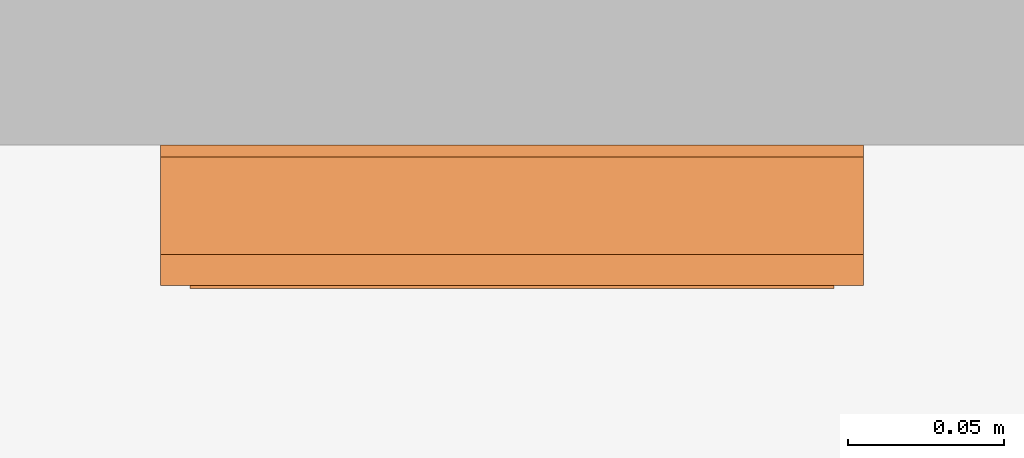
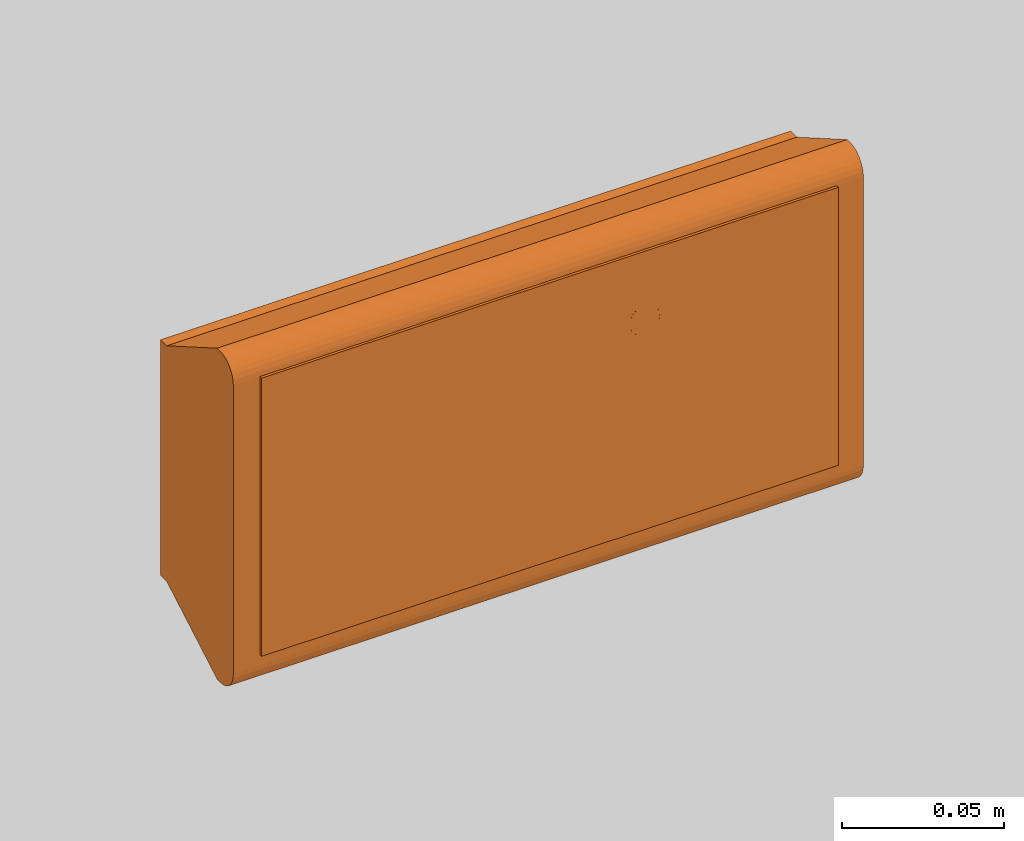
# One storey, part 60 of 197: 1 proxy.
"""IFC2X3 building model written with IfcOpenShell, lengths in metres."""

import ifcopenshell
import ifcopenshell.guid

model = None  # the IFC model being written
_history = None  # IfcOwnerHistory: only IFC2X3 demands one
_inside = {}  # id of a spatial element -> (the spatial element, [elements in it])
_under = {}  # id of a project, library or spatial element -> (it, [spatial elements below it])
_declared = {}  # id of a project -> (the project, [libraries it declares])
_typed = {}  # id of a type object -> (the type object, [elements of that type])
_made_of = {}  # id of a material, layer set ... -> (it, [elements and type objects made of it])


def new_model(schema):
    """Start an empty IFC model of exactly this schema.

    Asked for "IFC4X3", IfcOpenShell would pick the latest addendum, in which some entities
    have other attributes; the version numbers below select the first issue.
    IFC2X3 requires an IfcOwnerHistory on every rooted entity: one is made here for all.
    """
    global model, _history
    if schema == "IFC4X3":
        model = ifcopenshell.file(schema_version=(4, 3, 0, 0))
    else:
        model = ifcopenshell.file(schema=schema)
    _inside.clear()
    _under.clear()
    _declared.clear()
    _typed.clear()
    _made_of.clear()
    _history = None
    if model.schema == "IFC2X3":
        org = make("IfcOrganization", Name="unknown")
        user = make(
            "IfcPersonAndOrganization",
            ThePerson=make("IfcPerson", FamilyName="unknown"),
            TheOrganization=org,
        )
        app = make(
            "IfcApplication",
            ApplicationDeveloper=org,
            Version="unknown",
            ApplicationFullName="unknown",
            ApplicationIdentifier="unknown",
        )
        _history = make(
            "IfcOwnerHistory",
            OwningUser=user,
            OwningApplication=app,
            ChangeAction="ADDED",
            CreationDate=0,
        )
    return model


def make(cls, **values):
    """One entity of the class cls with the attributes given. An attribute that is None is left unset."""
    return model.create_entity(
        cls, **{name: value for name, value in values.items() if value is not None}
    )


def entity(cls, *values):
    """Any entity or typed value of the class cls, its attributes in the order of the schema. None: left unset."""
    e = model.create_entity(cls)
    for i, value in enumerate(values):
        if value is not None:
            e[i] = value
    return e


def rooted(cls, **values):
    """An entity with a GlobalId (a new one), such as an element, a storey or a relation."""
    return make(cls, GlobalId=ifcopenshell.guid.new(), OwnerHistory=_history, **values)


def si_unit(unit_type, name, prefix=None):
    """IfcSIUnit, for example si_unit("LENGTHUNIT", "METRE", prefix="MILLI")."""
    return make("IfcSIUnit", UnitType=unit_type, Prefix=prefix, Name=name)


def converted_unit(unit_type, name, factor, base, dimensions=None, offset=None):
    """IfcConversionBasedUnit, such as the inch: factor (a typed value) times the base unit."""
    return make(
        "IfcConversionBasedUnit"
        if offset is None
        else "IfcConversionBasedUnitWithOffset",
        ConversionOffset=offset,
        Dimensions=None
        if dimensions is None
        else entity("IfcDimensionalExponents", *dimensions),
        UnitType=unit_type,
        Name=name,
        ConversionFactor=make(
            "IfcMeasureWithUnit", ValueComponent=factor, UnitComponent=base
        ),
    )


def assignment(units):
    """IfcUnitAssignment: the units of a project."""
    return None if units is None else make("IfcUnitAssignment", Units=units)


def point(xyz):
    """IfcCartesianPoint."""
    return None if xyz is None else make("IfcCartesianPoint", Coordinates=xyz)


def direction(xyz):
    """IfcDirection."""
    return None if xyz is None else make("IfcDirection", DirectionRatios=xyz)


def frame(location, z_axis=None, x_axis=None):
    """IfcAxis2Placement3D, a coordinate frame: its origin and axes. An axis left out is left unset."""
    return make(
        "IfcAxis2Placement3D",
        Location=point(location),
        Axis=direction(z_axis),
        RefDirection=direction(x_axis),
    )


def frame_2d(location, x_axis=None):
    """IfcAxis2Placement2D, a coordinate frame in the plane: its origin and x axis."""
    return make(
        "IfcAxis2Placement2D", Location=point(location), RefDirection=direction(x_axis)
    )


def origin():
    """The frame at (0, 0, 0) with its axes left unset."""
    return frame((0.0, 0.0, 0.0))


def place(relative_to, where):
    """IfcLocalPlacement: puts the frame where relative to a parent placement (None: the world)."""
    return make(
        "IfcLocalPlacement", PlacementRelTo=relative_to, RelativePlacement=where
    )


def context(
    kind, dimensions, precision=None, world=None, true_north=None, identifier=None
):
    """IfcGeometricRepresentationContext, for example the 3D "Model" context."""
    return make(
        "IfcGeometricRepresentationContext",
        ContextIdentifier=identifier,
        ContextType=kind,
        CoordinateSpaceDimension=dimensions,
        Precision=precision,
        WorldCoordinateSystem=world,
        TrueNorth=true_north,
    )


def subcontext(parent, identifier, kind, view, scale=None):
    """IfcGeometricRepresentationSubContext, for example "Body" below "Model"."""
    return make(
        "IfcGeometricRepresentationSubContext",
        ContextIdentifier=identifier,
        ContextType=kind,
        ParentContext=parent,
        TargetScale=scale,
        TargetView=view,
    )


def project(units=None, contexts=None):
    """IfcProject with its units and contexts."""
    return rooted(
        "IfcProject",
        Name="project",
        RepresentationContexts=contexts,
        UnitsInContext=assignment(units),
    )


def spatial(cls, under=None, at=None, **own):
    """A site, building, storey or space (cls), placed at a placement, below another one or the project."""
    s = rooted(cls, ObjectPlacement=at, **own)
    if under is not None:
        _under.setdefault(under.id(), (under, []))[1].append(s)
    return s


def polyline(points):
    """IfcPolyline through the points."""
    return make("IfcPolyline", Points=[point(p) for p in points])


def circle_curve(where, radius):
    """IfcCircle in the frame where."""
    return make("IfcCircle", Position=where, Radius=radius)


def parameter(value):
    """IfcParameterValue: where a trimmed curve begins or ends, as a parameter of its basis curve."""
    return model.create_entity("IfcParameterValue", value)


def trimmed(basis, trim1, trim2, sense, master):
    """IfcTrimmedCurve: the piece of a basis curve between two trims."""
    return make(
        "IfcTrimmedCurve",
        BasisCurve=basis,
        Trim1=trim1,
        Trim2=trim2,
        SenseAgreement=sense,
        MasterRepresentation=master,
    )


def segment(curve, same_sense, transition):
    """IfcCompositeCurveSegment."""
    return make(
        "IfcCompositeCurveSegment",
        Transition=transition,
        SameSense=same_sense,
        ParentCurve=curve,
    )


def composite_curve(segments, self_intersect=None):
    """IfcCompositeCurve: segments joined end to end."""
    return make("IfcCompositeCurve", Segments=segments, SelfIntersect=self_intersect)


def profile(cls, at=None, kind="AREA", **sizes):
    """A parametric profile (cls). Its sizes go by their IFC names, for example OverallWidth=200.0."""
    return make(cls, ProfileType=kind, Position=at, **sizes)


def circle(**sizes):
    """IfcCircleProfileDef."""
    return profile("IfcCircleProfileDef", **sizes)


def outline(outer, holes=None, kind="AREA"):
    """IfcArbitraryClosedProfileDef: a profile drawn as a closed curve; with holes, ...WithVoids."""
    if holes is None:
        return make("IfcArbitraryClosedProfileDef", ProfileType=kind, OuterCurve=outer)
    return make(
        "IfcArbitraryProfileDefWithVoids",
        ProfileType=kind,
        OuterCurve=outer,
        InnerCurves=holes,
    )


def extrude(swept, where, along, depth):
    """IfcExtrudedAreaSolid: the profile swept, set in the frame where, extruded along a direction by depth."""
    return make(
        "IfcExtrudedAreaSolid",
        SweptArea=swept,
        Position=where,
        ExtrudedDirection=direction(along),
        Depth=depth,
    )


def shape(context_of_items, identifier, shape_type, items):
    """IfcShapeRepresentation: the items that make up one representation, for example the "Body"."""
    return make(
        "IfcShapeRepresentation",
        ContextOfItems=context_of_items,
        RepresentationIdentifier=identifier,
        RepresentationType=shape_type,
        Items=items,
    )


def source(mapping_origin, context_of_items, identifier, shape_type, items):
    """IfcRepresentationMap: a shape defined once, which mapped items show again and again."""
    return make(
        "IfcRepresentationMap",
        MappingOrigin=mapping_origin,
        MappedRepresentation=shape(context_of_items, identifier, shape_type, items),
    )


def transform(
    local_origin,
    x_axis=None,
    y_axis=None,
    z_axis=None,
    scale=None,
    scale2=None,
    scale3=None,
    uniform=True,
):
    """IfcCartesianTransformationOperator3D, or its non-uniform kind. x_axis, y_axis, z_axis: its Axis1, 2, 3."""
    if uniform:
        return make(
            "IfcCartesianTransformationOperator3D",
            Axis1=direction(x_axis),
            Axis2=direction(y_axis),
            LocalOrigin=point(local_origin),
            Scale=scale,
            Axis3=direction(z_axis),
        )
    return make(
        "IfcCartesianTransformationOperator3DnonUniform",
        Axis1=direction(x_axis),
        Axis2=direction(y_axis),
        LocalOrigin=point(local_origin),
        Scale=scale,
        Axis3=direction(z_axis),
        Scale2=scale2,
        Scale3=scale3,
    )


def mapped(mapping_source, mapping_target):
    """IfcMappedItem: shows the shape of a source again, moved by a transform."""
    return make(
        "IfcMappedItem", MappingSource=mapping_source, MappingTarget=mapping_target
    )


def material(Name=None, Category=None):
    """IfcMaterial."""
    return make("IfcMaterial", Name=Name, Category=Category)


def material_list(materials):
    """IfcMaterialList."""
    return make("IfcMaterialList", Materials=materials)


def made_of(thing, what):
    """Note that an element or type object is made of a material, layer set ...; save() writes the relation."""
    if what is not None:
        _made_of.setdefault(what.id(), (what, []))[1].append(thing)
    return thing


def type_object(cls, material=None, **own):
    """A type object (cls), such as IfcWallType, which elements share."""
    return made_of(rooted(cls, **own), material)


def type_shapes(of_type, sources):
    """Give a type object the sources (RepresentationMaps) that its elements show as mapped items."""
    of_type.RepresentationMaps = sources


def element(
    cls,
    number,
    at=None,
    inside=None,
    cuts=None,
    type_object=None,
    material=None,
    context=None,
    identifier="Body",
    shape_type=None,
    held_by="IfcProductDefinitionShape",
    body=None,
    shapes=None,
    **own,
):
    """One element of the class cls, such as IfcWall. Its Tag is "e" and its number.

    at: its placement. inside: the storey or other place that contains it. cuts: it is an
    opening in that element (IfcRelVoidsElement). A single representation is given by context,
    identifier, shape_type and body (its items); several are given by shapes. held_by: the class
    of the entity that holds the representations. save() writes the other relations.
    """
    e = rooted(cls, Tag="e%d" % number, ObjectPlacement=at, **own)
    if body is not None:
        shapes = [shape(context, identifier, shape_type, body)]
    if shapes is not None:
        e.Representation = make(held_by, Representations=shapes)
    if inside is not None:
        _inside.setdefault(inside.id(), (inside, []))[1].append(e)
    if cuts is not None:
        rooted(
            "IfcRelVoidsElement", RelatingBuildingElement=cuts, RelatedOpeningElement=e
        )
    if type_object is not None:
        _typed.setdefault(type_object.id(), (type_object, []))[1].append(e)
    return made_of(e, material)


def aggregate(whole, parts):
    """IfcRelAggregates: a whole, such as a stair, and the parts it consists of."""
    return rooted("IfcRelAggregates", RelatingObject=whole, RelatedObjects=parts)


def save(model, path):
    """Write the relations noted so far, then the file.

    IfcRelAggregates (storeys below a building ...), IfcRelContainedInSpatialStructure (elements
    in a storey), IfcRelDefinesByType, IfcRelAssociatesMaterial and IfcRelDeclares: one each for
    every whole, place, type object, material and project.
    """
    for whole, parts in _under.values():
        aggregate(whole, parts)
    for where, things in _inside.values():
        rooted(
            "IfcRelContainedInSpatialStructure",
            RelatedElements=things,
            RelatingStructure=where,
        )
    for kind, things in _typed.values():
        rooted("IfcRelDefinesByType", RelatedObjects=things, RelatingType=kind)
    for what, things in _made_of.values():
        rooted("IfcRelAssociatesMaterial", RelatedObjects=things, RelatingMaterial=what)
    for by, libraries in _declared.values():
        rooted("IfcRelDeclares", RelatingContext=by, RelatedDefinitions=libraries)
    model.write(path)


model = new_model("IFC2X3")

# Units and contexts
model_context = context("Model", 3, precision=1e-05, world=origin(), true_north=direction((6.123031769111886e-17, 1.0)))
body_context = subcontext(model_context, "Body", "Model", "MODEL_VIEW")
ifc_project = project(units=[si_unit("LENGTHUNIT", "METRE"), converted_unit("PLANEANGLEUNIT", "DEGREE", entity("IfcPlaneAngleMeasure", 0.017453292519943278), si_unit("PLANEANGLEUNIT", "RADIAN"), dimensions=[0, 0, 0, 0, 0, 0, 0]), si_unit("AREAUNIT", "SQUARE_METRE")], contexts=[model_context])

# Site, building, storey
site_placement = place(None, origin())
site = spatial("IfcSite", under=ifc_project, at=site_placement, Name="Default", CompositionType="ELEMENT")
building_placement = place(site_placement, origin())
building = spatial("IfcBuilding", under=site, at=building_placement, CompositionType="ELEMENT")
storey_placement = place(building_placement, origin())
storey = spatial("IfcBuildingStorey", under=building, at=storey_placement, Name="Niveau 0", CompositionType="ELEMENT", Elevation=0.0)

# Proxy
ifc_material_1 = material(Name="BETCE-ENVELOPPE BAES-BLANC")
ifc_material_2 = material(Name="BETCE-ETIQUETTE-VERT 0-193-0")
ifc_material_3 = material(Name="BETCE-VITRE BAES-BLEU")
ifc_material_list = material_list([ifc_material_1, ifc_material_2, ifc_material_3])
building_element_proxy_type = type_object("IfcBuildingElementProxyType", Name="Eclairage de sécurité saillie mur:BAS", PredefinedType="NOTDEFINED", material=ifc_material_list)
shared_shape = source(origin(), body_context, "Body", "SweptSolid", [
    extrude(outline(polyline([(-0.02895906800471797, -0.033302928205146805), (0.012231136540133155, -0.03330292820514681), (0.02996642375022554, -0.012907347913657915), (0.003103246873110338, -0.012907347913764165), (0.03240502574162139, 0.020789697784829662), (0.01608856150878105, 0.03497792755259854), (-0.013213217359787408, 0.0012808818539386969), (-0.01694341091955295, 0.027883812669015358), (-0.03467869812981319, 0.007488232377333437), (-0.02895906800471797, -0.033302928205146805)])), frame((-0.048943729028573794, -0.04599999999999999, 0.0035906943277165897), z_axis=(0.0, 1.0, 0.0), x_axis=(-0.7546055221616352, 0.0, 0.6561787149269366)), (0.0, 0.0, 1.0), 0.0010000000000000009),
    extrude(outline(composite_curve([segment(polyline([(-0.03171408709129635, -0.031123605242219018), (0.01989834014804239, -0.031123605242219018)]), True, "CONTINUOUS"), segment(polyline([(0.01989834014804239, -0.031123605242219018), (0.019898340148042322, 0.026433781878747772)]), True, "CONTINUOUS"), segment(polyline([(0.019898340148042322, 0.026433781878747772), (0.006609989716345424, 0.026433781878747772)]), True, "CONTINUOUS"), segment(trimmed(circle_curve(frame_2d((0.006609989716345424, 0.025833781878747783), x_axis=(0.0, 1.0)), 0.0006000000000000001), [parameter(0.0)], [parameter(83.97510158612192)], True, "PARAMETER"), True, "CONTINUOUS"), segment(polyline([(0.0060133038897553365, 0.025896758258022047), (0.004507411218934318, 0.011628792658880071)]), True, "CONTINUOUS"), segment(trimmed(circle_curve(frame_2d((-0.00942515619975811, 0.013099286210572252), x_axis=(0.0, 1.0)), 0.014009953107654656), [parameter(240.55607644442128)], [parameter(263.9751015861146)], True, "PARAMETER"), False, "CONTINUOUS"), segment(polyline([(0.0027752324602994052, 0.006212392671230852), (-0.0031319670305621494, -0.005153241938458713)]), True, "CONTINUOUS"), segment(polyline([(-0.0031319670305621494, -0.005153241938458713), (0.0052180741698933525, -0.005153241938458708)]), True, "CONTINUOUS"), segment(polyline([(0.0052180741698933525, -0.005153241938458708), (0.011569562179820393, 0.004436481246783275)]), True, "CONTINUOUS"), segment(trimmed(circle_curve(frame_2d((0.013690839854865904, 0.0027344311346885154), x_axis=(0.0, 1.0)), 0.0027197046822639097), [parameter(327.3277331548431)], [parameter(51.25747909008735)], True, "PARAMETER"), False, "CONTINUOUS"), segment(trimmed(circle_curve(frame_2d((0.013690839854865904, 0.0027344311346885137), x_axis=(0.0, 1.0)), 0.0027197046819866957), [parameter(243.39798722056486)], [parameter(327.32773315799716)], True, "PARAMETER"), False, "CONTINUOUS"), segment(polyline([(0.016122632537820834, 0.0015165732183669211), (0.008857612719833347, -0.009515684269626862)]), True, "CONTINUOUS"), segment(trimmed(circle_curve(frame_2d((0.00481319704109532, -0.005807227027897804), x_axis=(0.0, 1.0)), 0.0054872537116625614), [parameter(181.8824185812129)], [parameter(227.48126930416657)], True, "PARAMETER"), False, "CONTINUOUS"), segment(polyline([(0.004993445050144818, -0.011291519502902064), (-0.009885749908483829, -0.011291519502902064)]), True, "CONTINUOUS"), segment(trimmed(circle_curve(frame_2d((-0.009885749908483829, 0.001701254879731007), x_axis=(0.0, 1.0)), 0.012992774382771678), [parameter(133.5550019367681)], [parameter(180.0000000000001)], True, "PARAMETER"), False, "CONTINUOUS"), segment(polyline([(-0.019301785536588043, -0.007251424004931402), (-0.025875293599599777, 0.0021607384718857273)]), True, "CONTINUOUS"), segment(polyline([(-0.025875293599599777, 0.0021607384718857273), (-0.031714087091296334, 0.0021607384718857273)]), True, "CONTINUOUS"), segment(polyline([(-0.031714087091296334, 0.0021607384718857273), (-0.03171408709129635, -0.031123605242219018)]), True, "CONTINUOUS")], self_intersect=False), holes=[composite_curve([segment(trimmed(circle_curve(frame_2d((-0.01596067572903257, -0.0179604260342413), x_axis=(0.0, 1.0)), 0.005405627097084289), [parameter(269.9999999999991)], [parameter(359.9999999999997)], True, "PARAMETER"), False, "CONTINUOUS"), segment(trimmed(circle_curve(frame_2d((-0.01596067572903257, -0.0179604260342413), x_axis=(0.0, 1.0)), 0.005405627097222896), [parameter(180.00000000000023)], [parameter(269.9999999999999)], True, "PARAMETER"), False, "CONTINUOUS"), segment(trimmed(circle_curve(frame_2d((-0.01596067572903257, -0.017960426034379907), x_axis=(0.0, 1.0)), 0.005405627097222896), [parameter(89.99999999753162)], [parameter(179.9999999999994)], True, "PARAMETER"), False, "CONTINUOUS"), segment(trimmed(circle_curve(frame_2d((-0.01596067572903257, -0.017960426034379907), x_axis=(0.0, 1.0)), 0.005405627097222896), [parameter(359.9999999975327)], [parameter(89.99999999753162)], True, "PARAMETER"), False, "CONTINUOUS")], self_intersect=False)]), frame((0.04975088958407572, -0.04599999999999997, 0.008704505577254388), z_axis=(0.0, 1.0, 0.0), x_axis=(1.0, 0.0, 0.0)), (0.0, 0.0, 1.0), 0.001000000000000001),
    extrude(outline(composite_curve([segment(polyline([(-0.011174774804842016, -0.0037977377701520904), (-0.011174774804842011, -0.010138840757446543)]), True, "CONTINUOUS"), segment(polyline([(-0.011174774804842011, -0.010138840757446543), (0.03194487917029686, -0.010138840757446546)]), True, "CONTINUOUS"), segment(polyline([(0.03194487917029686, -0.010138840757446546), (0.03194487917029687, -0.0024869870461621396)]), True, "CONTINUOUS"), segment(polyline([(0.03194487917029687, -0.0024869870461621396), (0.02601267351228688, -0.0024869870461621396)]), True, "CONTINUOUS"), segment(polyline([(0.02601267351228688, -0.0024869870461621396), (-0.005661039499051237, 0.01043216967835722)]), True, "CONTINUOUS"), segment(trimmed(circle_curve(frame_2d((-0.0076628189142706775, 0.006850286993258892), x_axis=(1.0, 0.0)), 0.004103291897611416), [parameter(60.800818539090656)], [parameter(115.83024310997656)], True, "PARAMETER"), True, "CONTINUOUS"), segment(polyline([(-0.009450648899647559, 0.010543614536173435), (-0.020140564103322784, 0.005368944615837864)]), True, "CONTINUOUS"), segment(trimmed(circle_curve(frame_2d((-0.01977914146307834, 0.00490073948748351), x_axis=(1.0, 0.0)), 0.0005914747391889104), [parameter(127.66570843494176)], [parameter(232.33429156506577)], True, "PARAMETER"), True, "CONTINUOUS"), segment(polyline([(-0.020140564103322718, 0.0044325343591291), (-0.0121600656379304, -0.0017278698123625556)]), True, "CONTINUOUS"), segment(trimmed(circle_curve(frame_2d((-0.013841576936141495, -0.0037977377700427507), x_axis=(1.0, 0.0)), 0.0026668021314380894), [parameter(2.544443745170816e-13)], [parameter(50.9104167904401)], True, "PARAMETER"), False, "CONTINUOUS")], self_intersect=False)), frame((0.028175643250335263, -0.046, -0.010852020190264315), z_axis=(0.0, -1.0, 0.0), x_axis=(0.0, 0.0, -1.0)), (0.0, 0.0, -1.0), 0.001000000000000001),
    extrude(outline(composite_curve([segment(trimmed(circle_curve(frame_2d((0.00784705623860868, -0.01405912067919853), x_axis=(-0.6437060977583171, 0.7652728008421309)), 0.0006110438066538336), [parameter(99.86253538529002)], [parameter(179.99999999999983)], True, "PARAMETER"), True, "CONTINUOUS"), segment(trimmed(circle_curve(frame_2d((0.00784705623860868, -0.01405912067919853), x_axis=(-0.6437060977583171, 0.7652728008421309)), 0.0006110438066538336), [parameter(179.99999999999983)], [parameter(260.13746546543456)], True, "PARAMETER"), True, "CONTINUOUS"), segment(polyline([(0.008375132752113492, -0.013751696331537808), (0.0011749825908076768, -0.001383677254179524)]), True, "CONTINUOUS"), segment(trimmed(circle_curve(frame_2d((0.003762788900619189, -0.00031801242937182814), x_axis=(-0.6437060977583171, 0.7652728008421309)), 0.002798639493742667), [parameter(359.99999999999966)], [parameter(72.31324887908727)], True, "PARAMETER"), False, "CONTINUOUS"), segment(polyline([(0.001961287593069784, 0.0018237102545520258), (0.015386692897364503, 0.01311643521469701)]), True, "CONTINUOUS"), segment(polyline([(0.015386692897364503, 0.01311643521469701), (0.0035080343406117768, 0.027238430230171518)]), True, "CONTINUOUS"), segment(polyline([(0.0035080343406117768, 0.027238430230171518), (-0.024968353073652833, 0.0032856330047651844)]), True, "CONTINUOUS"), segment(polyline([(-0.024968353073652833, 0.0032856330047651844), (-0.0211318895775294, -0.0012753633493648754)]), True, "CONTINUOUS"), segment(polyline([(-0.0211318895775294, -0.0012753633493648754), (0.007453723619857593, -0.014526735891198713)]), True, "CONTINUOUS")], self_intersect=False)), frame((0.049431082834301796, -0.04599999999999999, -0.02421021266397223), z_axis=(0.0, 1.0, 0.0), x_axis=(0.7652728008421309, 0.0, 0.6437060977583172)), (0.0, 0.0, 1.0), 0.001000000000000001),
    extrude(outline(polyline([(-0.05249999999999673, -0.10299999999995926), (0.05249999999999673, -0.10299999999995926), (0.05249999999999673, 0.10299999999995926), (-0.05249999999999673, 0.10299999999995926), (-0.05249999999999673, -0.10299999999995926)]), holes=[polyline([(0.040542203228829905, 0.0489437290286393), (0.013514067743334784, 0.017861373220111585), (-0.013514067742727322, 0.017861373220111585), (0.004112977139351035, 0.038132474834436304), (-0.04054220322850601, 0.038132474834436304), (-0.04054220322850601, 0.059754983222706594), (0.004112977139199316, 0.059754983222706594), (-0.01351406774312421, 0.08002608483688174), (0.013514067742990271, 0.08002608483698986), (0.040542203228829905, 0.0489437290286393)]), composite_curve([segment(polyline([(-0.039828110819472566, -0.018036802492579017), (-0.006543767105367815, -0.018036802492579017)]), True, "CONTINUOUS"), segment(polyline([(-0.006543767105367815, -0.018036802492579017), (-0.006543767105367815, -0.023875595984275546)]), True, "CONTINUOUS"), segment(polyline([(-0.006543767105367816, -0.023875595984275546), (-0.015955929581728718, -0.03044910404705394)]), True, "CONTINUOUS"), segment(trimmed(circle_curve(frame_2d((-0.007003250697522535, -0.039865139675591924), x_axis=(-1.0, 0.0)), 0.012992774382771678), [parameter(313.5550019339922)], [parameter(3.5622212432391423e-13)], True, "PARAMETER"), True, "CONTINUOUS"), segment(polyline([(-0.019996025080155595, -0.039865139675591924), (-0.019996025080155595, -0.05474433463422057)]), True, "CONTINUOUS"), segment(trimmed(circle_curve(frame_2d((-0.014511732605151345, -0.05456408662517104), x_axis=(-1.0, 0.0)), 0.0054872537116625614), [parameter(1.8824185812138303)], [parameter(47.481269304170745)], True, "PARAMETER"), True, "CONTINUOUS"), segment(polyline([(-0.018220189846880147, -0.0586085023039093), (-0.0071879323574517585, -0.0658735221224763)]), True, "CONTINUOUS"), segment(trimmed(circle_curve(frame_2d((-0.005970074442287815, -0.06344172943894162), x_axis=(-1.0, 0.0)), 0.0027197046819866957), [parameter(63.39798724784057)], [parameter(147.32773315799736)], True, "PARAMETER"), True, "CONTINUOUS"), segment(trimmed(circle_curve(frame_2d((-0.005970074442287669, -0.06344172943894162), x_axis=(-1.0, 0.0)), 0.0027197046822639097), [parameter(147.3277331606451)], [parameter(231.25747905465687)], True, "PARAMETER"), True, "CONTINUOUS"), segment(polyline([(-0.004268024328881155, -0.061320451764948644), (-0.013857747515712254, -0.05496896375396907)]), True, "CONTINUOUS"), segment(polyline([(-0.013857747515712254, -0.05496896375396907), (-0.013857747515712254, -0.046618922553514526)]), True, "CONTINUOUS"), segment(polyline([(-0.013857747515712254, -0.046618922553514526), (-0.002492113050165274, -0.052526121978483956)]), True, "CONTINUOUS"), segment(trimmed(circle_curve(frame_2d((0.004394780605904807, -0.04032573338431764), x_axis=(-1.0, 0.0)), 0.014009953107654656), [parameter(60.556075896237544)], [parameter(83.9751015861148)], True, "PARAMETER"), True, "CONTINUOUS"), segment(polyline([(0.0029242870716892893, -0.05425830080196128), (0.01719225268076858, -0.05576419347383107)]), True, "CONTINUOUS"), segment(trimmed(circle_curve(frame_2d((0.01712927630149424, -0.05636087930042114), x_axis=(-1.0, 0.0)), 0.0006000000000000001), [parameter(180.00000000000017)], [parameter(263.9751015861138)], True, "PARAMETER"), False, "CONTINUOUS"), segment(polyline([(0.017729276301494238, -0.05636087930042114), (0.017729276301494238, -0.06964922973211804)]), True, "CONTINUOUS"), segment(polyline([(0.017729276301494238, -0.06964922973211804), (-0.039828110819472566, -0.06964922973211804)]), True, "CONTINUOUS"), segment(polyline([(-0.039828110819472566, -0.06964922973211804), (-0.039828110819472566, -0.018036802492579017)]), True, "CONTINUOUS")], self_intersect=False), composite_curve([segment(polyline([(0.042796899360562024, -0.06964922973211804), (0.024343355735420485, -0.06964922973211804)]), True, "CONTINUOUS"), segment(polyline([(0.024343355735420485, -0.06964922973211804), (0.024343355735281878, -0.05210593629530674)]), True, "CONTINUOUS"), segment(trimmed(circle_curve(frame_2d((0.0215447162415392, -0.05210593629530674), x_axis=(-1.0, 0.0)), 0.002798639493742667), [parameter(179.99999999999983)], [parameter(252.3132488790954)], True, "PARAMETER"), True, "CONTINUOUS"), segment(polyline([(0.02239497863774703, -0.04943958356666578), (0.008295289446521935, -0.04698829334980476)]), True, "CONTINUOUS"), segment(trimmed(circle_curve(frame_2d((0.008399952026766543, -0.04638627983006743), x_axis=(-1.0, 0.0)), 0.0006110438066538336), [parameter(0.0)], [parameter(80.13746546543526)], True, "PARAMETER"), False, "CONTINUOUS"), segment(trimmed(circle_curve(frame_2d((0.008399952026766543, -0.04638627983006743), x_axis=(-1.0, 0.0)), 0.0006110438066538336), [parameter(279.86253451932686)], [parameter(0.0)], True, "PARAMETER"), False, "CONTINUOUS"), segment(polyline([(0.008295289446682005, -0.04578426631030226), (0.036836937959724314, -0.03243846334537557)]), True, "CONTINUOUS"), segment(polyline([(0.036836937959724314, -0.03243846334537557), (0.042796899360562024, -0.03243846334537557)]), True, "CONTINUOUS"), segment(polyline([(0.042796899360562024, -0.03243846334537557), (0.042796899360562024, -0.06964922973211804)]), True, "CONTINUOUS")], self_intersect=False), composite_curve([segment(polyline([(0.042796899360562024, -0.018036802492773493), (0.042796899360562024, -0.025688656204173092)]), True, "CONTINUOUS"), segment(polyline([(0.042796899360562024, -0.025688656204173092), (0.03686469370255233, -0.025688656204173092)]), True, "CONTINUOUS"), segment(polyline([(0.03686469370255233, -0.025688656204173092), (0.005190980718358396, -0.03860781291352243)]), True, "CONTINUOUS"), segment(trimmed(circle_curve(frame_2d((0.003189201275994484, -0.03502593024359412), x_axis=(-1.0, 0.0)), 0.004103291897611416), [parameter(64.16975689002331)], [parameter(119.19918189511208)], True, "PARAMETER"), False, "CONTINUOUS"), segment(polyline([(0.001401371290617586, -0.03871925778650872), (-0.009288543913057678, -0.03354458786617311)]), True, "CONTINUOUS"), segment(trimmed(circle_curve(frame_2d((-0.008927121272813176, -0.03307638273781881), x_axis=(-1.0, 0.0)), 0.0005914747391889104), [parameter(307.665708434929)], [parameter(52.33429156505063)], True, "PARAMETER"), False, "CONTINUOUS"), segment(polyline([(-0.009288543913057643, -0.03260817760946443), (-0.0013080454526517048, -0.02644777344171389)]), True, "CONTINUOUS"), segment(trimmed(circle_curve(frame_2d((-0.0029895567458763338, -0.024377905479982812), x_axis=(-1.0, 0.0)), 0.0026668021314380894), [parameter(129.08958307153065)], [parameter(179.99999999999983)], True, "PARAMETER"), True, "CONTINUOUS"), segment(polyline([(-0.00032275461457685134, -0.02437790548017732), (-0.00032275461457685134, -0.018036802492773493)]), True, "CONTINUOUS"), segment(polyline([(-0.00032275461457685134, -0.018036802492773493), (0.042796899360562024, -0.018036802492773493)]), True, "CONTINUOUS")], self_intersect=False)]), frame((0.0, -0.046, 0.0), z_axis=(0.0, 1.0, 0.0), x_axis=(0.0, 0.0, -1.0)), (0.0, 0.0, 1.0), 0.001000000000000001),
    extrude(circle(Radius=0.005405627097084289, at=frame_2d((0.0, -2.3552360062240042e-14), x_axis=(1.0, 0.0))), frame((0.03379021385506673, -0.046, 0.026664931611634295), z_axis=(0.0, 1.0, 0.0), x_axis=(0.0, 0.0, 1.0)), (0.0, 0.0, 1.0), 0.001000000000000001),
    extrude(outline(composite_curve([segment(trimmed(circle_curve(frame_2d((-0.0020000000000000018, -0.054499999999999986), x_axis=(1.0, 0.0)), 0.008), [parameter(270.0000000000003)], [parameter(3.5622212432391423e-13)], True, "PARAMETER"), True, "CONTINUOUS"), segment(polyline([(0.005999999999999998, -0.05449999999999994), (0.005999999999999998, 0.05450000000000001)]), True, "CONTINUOUS"), segment(trimmed(circle_curve(frame_2d((-0.0020000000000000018, 0.05450000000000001), x_axis=(1.0, 0.0)), 0.008), [parameter(359.9999999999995)], [parameter(89.99999999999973)], True, "PARAMETER"), True, "CONTINUOUS"), segment(polyline([(-0.001999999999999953, 0.06250000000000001), (-0.003999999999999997, 0.06250000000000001)]), True, "CONTINUOUS"), segment(polyline([(-0.003999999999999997, 0.06250000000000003), (-0.003999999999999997, -0.062499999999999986)]), True, "CONTINUOUS"), segment(polyline([(-0.003999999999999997, -0.0625), (-0.0020000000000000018, -0.0625)]), True, "CONTINUOUS")], self_intersect=False)), frame((-0.1125, -0.039, -0.0019999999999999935), z_axis=(1.0, 0.0, 0.0), x_axis=(0.0, -1.0, 0.0)), (0.0, 0.0, 1.0), 0.22499999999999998),
    extrude(outline(polyline([(-0.0625, -0.02205897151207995), (0.0625, -0.02205897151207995), (0.04449999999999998, 0.009117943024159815), (0.04449999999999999, 0.01294102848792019), (-0.04449999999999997, 0.012941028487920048), (-0.04449999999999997, 0.009117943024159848), (-0.0625, -0.02205897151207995)])), frame((-0.1125, -0.012941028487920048, -0.002000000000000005), z_axis=(1.0, 0.0, 0.0), x_axis=(0.0, 0.0, -1.0)), (0.0, 0.0, 1.0), 0.225),
])
type_shapes(building_element_proxy_type, [shared_shape])
proxy_placement = place(storey_placement, frame((-488.3559728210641, 111.79035524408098, 1.0)))
element("IfcBuildingElementProxy", 1, at=proxy_placement, inside=storey, type_object=building_element_proxy_type, material=ifc_material_list, Name="Eclairage de sécurité saillie mur:BAS", ObjectType="Eclairage de sécurité saillie mur:BAS", context=body_context, shape_type="MappedRepresentation", body=[
    mapped(shared_shape, transform((0.0, 0.0, 0.0), scale=1.0)),
])

save(model, "model.ifc")
